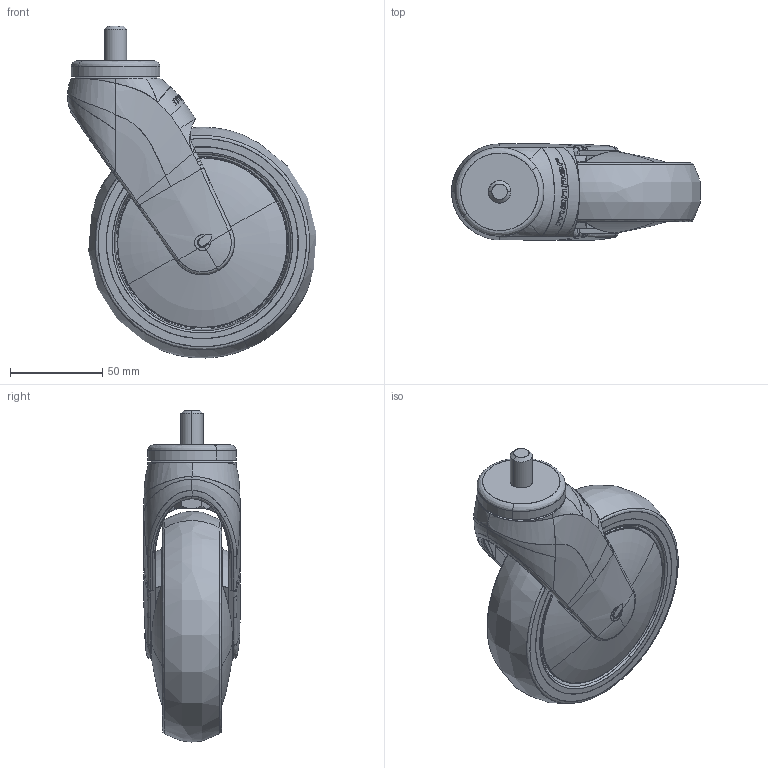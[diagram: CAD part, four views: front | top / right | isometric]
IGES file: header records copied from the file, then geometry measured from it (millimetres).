
Start section: SolidWorks IGES file using analytic representation for surfaces
Global section: file name: S:\Tyokansio\VL\301677_IGES.IGS; native system: SolidWorks 2011; preprocessor: SolidWorks 2011; author: VilleLa; date: 110610.113625; units: millimetre
Bounding box: 134.8 x 52.08 x 179.83 mm (x, y, z)
Surface area: 98243.8 mm2 (no closed solid volume)
Topology: 0 solids, 0 shells, 353 faces, 5489 edges, 5478 vertices
Faces by surface type: bspline 294, revolution 59
